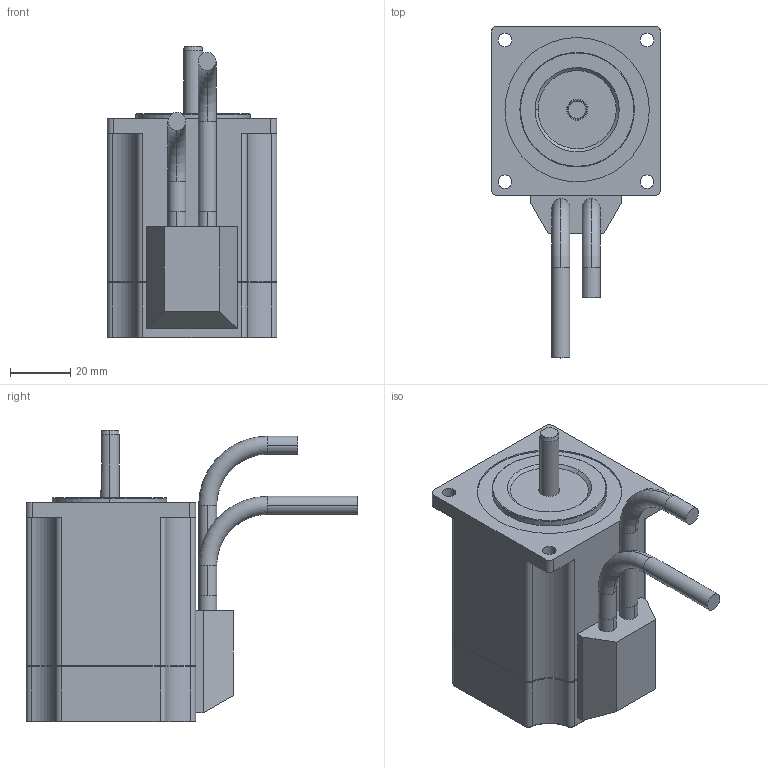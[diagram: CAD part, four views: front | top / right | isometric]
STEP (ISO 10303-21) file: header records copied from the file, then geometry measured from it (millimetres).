
FILE_DESCRIPTION (( 'STEP AP203' ), '1' );
FILE_NAME ('STP-59D3217.STEP', '2020-06-03T01:47:16', ( '' ), ( '' ), 'SwSTEP 2.0', 'SolidWorks 2016', '' );
FILE_SCHEMA (( 'CONFIG_CONTROL_DESIGN' ));
Length unit declared in the file: millimetre
Products named in the file (5): STP-59D3217錨璃4; STP-59D3217錨璃3; STP-59D3217錨璃2; STP-59D3217錨璃1; STP-59D3217
Assembly tree (5 placements, depth 2):
  STP-59D3217
    STP-59D3217錨璃1
    STP-59D3217錨璃2
    STP-59D3217錨璃3
    STP-59D3217錨璃4  x2
Bounding box: 56.4 x 110.4 x 97 mm (x, y, z)
Volume: 226210.9 mm3; surface area: 34195.9 mm2
Topology: 5 solids, 5 shells, 153 faces, 354 edges, 218 vertices
Faces by surface type: cylinder 68, torus 40, plane 38, cone 7
Entity records: 4736 total; most frequent: DIRECTION 845, CARTESIAN_POINT 701, ORIENTED_EDGE 672, AXIS2_PLACEMENT_3D 358, EDGE_CURVE 336, VERTEX_POINT 206, CIRCLE 205, EDGE_LOOP 160
